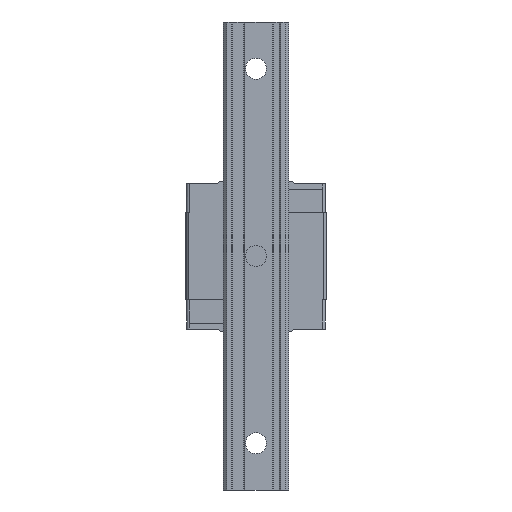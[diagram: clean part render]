
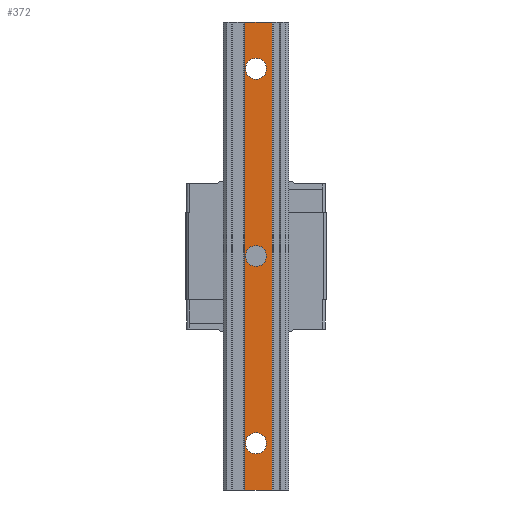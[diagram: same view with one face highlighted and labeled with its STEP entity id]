
A CAD part, front view. The second image highlights one B-rep face of the part: STEP entity #372.
In plain terms, the highlighted planar face has unit normal (0, -1, 0).
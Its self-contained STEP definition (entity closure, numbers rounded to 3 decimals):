
#283=CARTESIAN_POINT('',(-4.8,-19.05,-100.0));
#284=VERTEX_POINT('',#283);
#291=CARTESIAN_POINT('',(-4.8,-19.05,100.0));
#292=VERTEX_POINT('',#291);
#293=CARTESIAN_POINT('',(-4.8,-19.05,100.0));
#294=DIRECTION('',(0.0,0.0,-1.0));
#295=VECTOR('',#294,200.0);
#296=LINE('',#293,#295);
#297=EDGE_CURVE('',#292,#284,#296,.T.);
#309=CARTESIAN_POINT('',(-4.8,-19.05,120.0));
#310=DIRECTION('',(0.0,1.0,0.0));
#311=DIRECTION('',(0.0,0.0,1.0));
#312=AXIS2_PLACEMENT_3D('',#309,#310,#311);
#313=PLANE('',#312);
#314=CARTESIAN_POINT('',(7.,-19.05,-100.0));
#315=VERTEX_POINT('',#314);
#316=CARTESIAN_POINT('',(-4.8,-19.05,-100.0));
#317=DIRECTION('',(1.0,0.0,0.0));
#318=VECTOR('',#317,11.8);
#319=LINE('',#316,#318);
#320=EDGE_CURVE('',#284,#315,#319,.T.);
#321=ORIENTED_EDGE('',*,*,#320,.T.);
#322=CARTESIAN_POINT('',(7.,-19.05,100.0));
#323=VERTEX_POINT('',#322);
#324=CARTESIAN_POINT('',(7.,-19.05,100.0));
#325=DIRECTION('',(0.0,0.0,-1.0));
#326=VECTOR('',#325,200.0);
#327=LINE('',#324,#326);
#328=EDGE_CURVE('',#323,#315,#327,.T.);
#329=ORIENTED_EDGE('',*,*,#328,.F.);
#330=CARTESIAN_POINT('',(-4.8,-19.05,100.0));
#331=DIRECTION('',(1.0,0.0,0.0));
#332=VECTOR('',#331,11.8);
#333=LINE('',#330,#332);
#334=EDGE_CURVE('',#292,#323,#333,.T.);
#335=ORIENTED_EDGE('',*,*,#334,.F.);
#336=ORIENTED_EDGE('',*,*,#297,.T.);
#337=EDGE_LOOP('',(#321,#329,#335,#336));
#338=FACE_OUTER_BOUND('',#337,.T.);
#339=CARTESIAN_POINT('',(0.0,-19.05,4.5));
#340=VERTEX_POINT('',#339);
#341=CARTESIAN_POINT('',(0.0,-19.05,0.));
#342=DIRECTION('',(0.0,1.0,0.0));
#343=DIRECTION('',(0.0,0.0,1.0));
#344=AXIS2_PLACEMENT_3D('',#341,#342,#343);
#345=CIRCLE('',#344,4.5);
#346=EDGE_CURVE('',#340,#340,#345,.T.);
#347=ORIENTED_EDGE('',*,*,#346,.T.);
#348=EDGE_LOOP('',(#347));
#349=FACE_BOUND('',#348,.T.);
#350=CARTESIAN_POINT('',(0.0,-19.05,84.5));
#351=VERTEX_POINT('',#350);
#352=CARTESIAN_POINT('',(0.0,-19.05,80.));
#353=DIRECTION('',(0.0,1.0,0.0));
#354=DIRECTION('',(0.0,0.0,1.0));
#355=AXIS2_PLACEMENT_3D('',#352,#353,#354);
#356=CIRCLE('',#355,4.5);
#357=EDGE_CURVE('',#351,#351,#356,.T.);
#358=ORIENTED_EDGE('',*,*,#357,.T.);
#359=EDGE_LOOP('',(#358));
#360=FACE_BOUND('',#359,.T.);
#361=CARTESIAN_POINT('',(0.0,-19.05,-75.5));
#362=VERTEX_POINT('',#361);
#363=CARTESIAN_POINT('',(0.0,-19.05,-80.));
#364=DIRECTION('',(0.0,1.0,0.0));
#365=DIRECTION('',(0.0,0.0,1.0));
#366=AXIS2_PLACEMENT_3D('',#363,#364,#365);
#367=CIRCLE('',#366,4.5);
#368=EDGE_CURVE('',#362,#362,#367,.T.);
#369=ORIENTED_EDGE('',*,*,#368,.T.);
#370=EDGE_LOOP('',(#369));
#371=FACE_BOUND('',#370,.T.);
#372=ADVANCED_FACE('',(#338,#349,#360,#371),#313,.F.);
